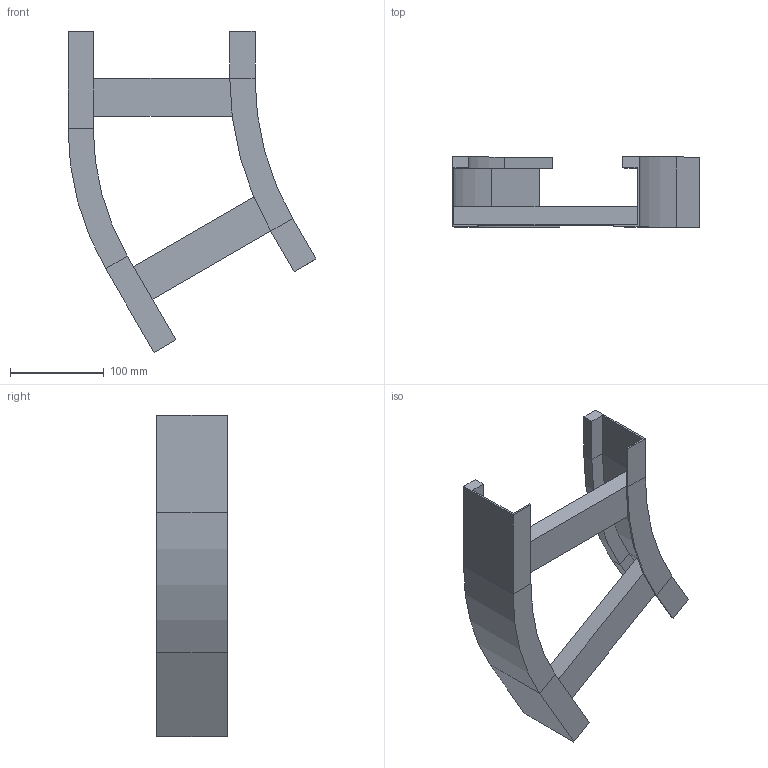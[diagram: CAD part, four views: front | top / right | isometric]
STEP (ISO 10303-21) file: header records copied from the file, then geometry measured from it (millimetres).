
FILE_DESCRIPTION (( 'STEP AP214' ), '1' );
FILE_NAME ('B2_12B3C200.step', '2025-02-21T15:11:07', ( '' ), ( '' ), 'SwSTEP 2.0', 'SolidWorks 2023', '' );
FILE_SCHEMA (( 'AUTOMOTIVE_DESIGN' ));
Length unit declared in the file: millimetre
Products named in the file (4): B2_12B3C200; TRAVERSINO_200; B2_LONGH.ESTERNO 30°_H75_R300+200; B2_LONGH.INTERNO 30°_H75_R300
Assembly tree (4 placements, depth 2):
  B2_12B3C200
    B2_LONGH.INTERNO 30°_H75_R300
    B2_LONGH.ESTERNO 30°_H75_R300+200
    TRAVERSINO_200  x2
Bounding box: 265.19 x 75 x 343.3 mm (x, y, z)
Volume: 561084.9 mm3; surface area: 198876 mm2
Topology: 4 solids, 4 shells, 64 faces, 136 edges, 80 vertices
Faces by surface type: plane 56, cylinder 8
Entity records: 1637 total; most frequent: DIRECTION 270, CARTESIAN_POINT 261, ORIENTED_EDGE 248, EDGE_CURVE 124, LINE 108, VECTOR 108, AXIS2_PLACEMENT_3D 81, VERTEX_POINT 72
